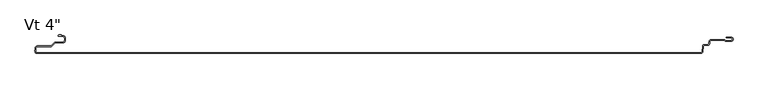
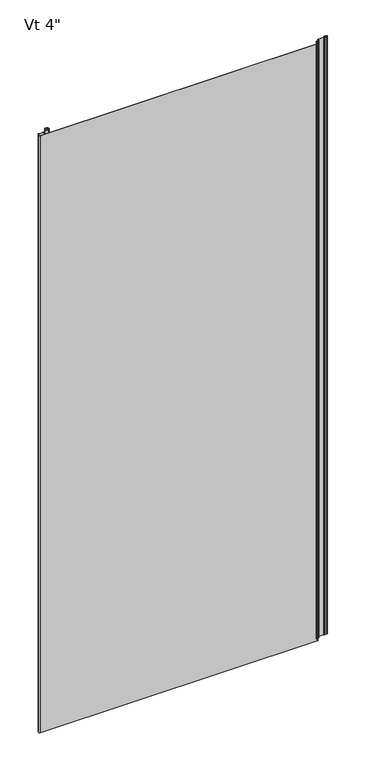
"""IFC4 building model written with IfcOpenShell, lengths in millimetres: plate geometry."""

from ifc_helpers import new_model, si_unit, point, frame_2d, origin, origin_with_axes, place, context, project, spatial, polyline, circle_curve, trimmed, segment, composite_curve, outline, extrude, source, transform, mapped, element, save


def plate_63041f73(model_context):
    return source(origin(), model_context, "Body", "SweptSolid", [
        extrude(outline(composite_curve([segment(polyline([(-532.5329867, -72.1060333), (-528.774586, -72.1060333), (-528.774586, -73.5045169), (-526.0754696, -73.5045169)]), True, "CONTINUOUS"), segment(trimmed(circle_curve(frame_2d((-526.0754696, -76.8545168)), 3.3499999), [point((-526.0754696, -73.5045169))], [point((-522.7254697, -76.8545168))], False, "CARTESIAN"), True, "CONTINUOUS"), segment(polyline([(-522.7254697, -76.8545168), (-522.7254697, -81.2545166)]), True, "CONTINUOUS"), segment(trimmed(circle_curve(frame_2d((-526.0754696, -81.2545166)), 3.3499999), [point((-522.7254697, -81.2545166))], [point((-526.0754696, -84.6045165))], False, "CARTESIAN"), True, "CONTINUOUS"), segment(polyline([(-526.0754696, -84.6045165), (-537.8863818, -84.6045165)]), True, "CONTINUOUS"), segment(trimmed(circle_curve(frame_2d((-537.8863818, -86.3045165)), 1.7), [point((-537.8863818, -84.6045165))], [point((-539.0884633, -85.102435))], True, "CARTESIAN"), True, "CONTINUOUS"), segment(polyline([(-539.0884633, -85.102435), (-543.8290223, -89.8429939)]), True, "CONTINUOUS"), segment(trimmed(circle_curve(frame_2d((-545.6674999, -88.0045163)), 2.6), [point((-543.8290223, -89.8429939))], [point((-545.6674999, -90.6045163))], False, "CARTESIAN"), True, "CONTINUOUS"), segment(polyline([(-545.6674999, -90.6045163), (-566.6742572, -90.6045163)]), True, "CONTINUOUS"), segment(trimmed(circle_curve(frame_2d((-566.6742572, -93.3045163)), 2.7), [point((-566.6742572, -90.6045163))], [point((-569.3639643, -93.0689835))], True, "CARTESIAN"), True, "CONTINUOUS"), segment(polyline([(-569.3639643, -93.0689835), (-569.7796495, -97.8159721)]), True, "CONTINUOUS"), segment(trimmed(circle_curve(frame_2d((-567.22876, -98.0393488)), 2.5606512), [point((-569.7796495, -97.8159721))], [point((-567.22876, -100.6))], True, "CARTESIAN"), True, "CONTINUOUS"), segment(polyline([(-567.22876, -100.6), (487.6519047, -100.6)]), True, "CONTINUOUS"), segment(trimmed(circle_curve(frame_2d((487.6519047, -98.7102824)), 1.8897176), [point((487.6519047, -100.6))], [point((489.5344274, -98.8750281))], True, "CARTESIAN"), True, "CONTINUOUS"), segment(polyline([(489.5344274, -98.8750281), (490.2810225, -90.3438082)]), True, "CONTINUOUS"), segment(trimmed(circle_curve(frame_2d((493.2970771, -90.6077531)), 3.027582), [point((490.2810225, -90.3438082))], [point((490.8950589, -88.7647769))], False, "CARTESIAN"), True, "CONTINUOUS"), segment(trimmed(circle_curve(frame_2d((493.2751942, -90.5909631)), 3.0), [point((490.8950589, -88.7647769))], [point((493.2848524, -87.5909787))], False, "CARTESIAN"), True, "CONTINUOUS"), segment(polyline([(493.2848524, -87.5909787), (498.6449659, -87.5909787)]), True, "CONTINUOUS"), segment(trimmed(circle_curve(frame_2d((498.6449659, -85.7909787)), 1.8), [point((498.6449659, -87.5909787))], [point((500.4449659, -85.7909787))], True, "CARTESIAN"), True, "CONTINUOUS"), segment(polyline([(500.4449659, -85.7909787), (500.4449659, -83.500418)]), True, "CONTINUOUS"), segment(trimmed(circle_curve(frame_2d((504.4449659, -83.500418)), 4.0), [point((500.4449659, -83.500418))], [point((504.4449659, -79.500418))], False, "CARTESIAN"), True, "CONTINUOUS"), segment(polyline([(504.4449659, -79.500418), (523.9824407, -79.500418)]), True, "CONTINUOUS"), segment(trimmed(circle_curve(frame_2d((523.9824407, -82.100418)), 2.6), [point((523.9824407, -79.500418))], [point((525.9423153, -80.3919416))], False, "CARTESIAN"), True, "CONTINUOUS"), segment(polyline([(525.9423153, -80.3919416), (526.8881383, -81.4769402), (535.7430969, -81.1263694)]), True, "CONTINUOUS"), segment(trimmed(circle_curve(frame_2d((535.6599479, -79.0261346)), 2.10188), [point((535.7430969, -81.1263694))], [point((535.7400007, -76.9257796))], True, "CARTESIAN"), True, "CONTINUOUS"), segment(polyline([(535.7400007, -76.9257796), (527.7295248, -76.4370324), (527.790425, -75.4388885), (535.7906063, -75.9270077)]), True, "CONTINUOUS"), segment(trimmed(circle_curve(frame_2d((535.6599479, -79.0261346)), 3.10188), [point((535.7906063, -75.9270077))], [point((535.7826562, -82.1255866))], False, "CARTESIAN"), True, "CONTINUOUS"), segment(polyline([(535.7826562, -82.1255866), (526.4490857, -82.4951059), (525.1885174, -81.0490479)]), True, "CONTINUOUS"), segment(trimmed(circle_curve(frame_2d((523.9824407, -82.100418)), 1.6), [point((525.1885174, -81.0490479))], [point((523.9824407, -80.500418))], True, "CARTESIAN"), True, "CONTINUOUS"), segment(polyline([(523.9824407, -80.500418), (504.4449659, -80.500418)]), True, "CONTINUOUS"), segment(trimmed(circle_curve(frame_2d((504.4449659, -83.500418)), 3.0), [point((504.4449659, -80.500418))], [point((501.4449659, -83.500418))], True, "CARTESIAN"), True, "CONTINUOUS"), segment(polyline([(501.4449659, -83.500418), (501.4449659, -85.7909787)]), True, "CONTINUOUS"), segment(trimmed(circle_curve(frame_2d((498.6449659, -85.7909787)), 2.8), [point((501.4449659, -85.7909787))], [point((498.6449659, -88.5909787))], False, "CARTESIAN"), True, "CONTINUOUS"), segment(polyline([(498.6449659, -88.5909787), (493.28308, -88.5909787)]), True, "CONTINUOUS"), segment(trimmed(circle_curve(frame_2d((493.2751942, -90.5909631)), 2.0), [point((493.28308, -88.5909787))], [point((491.6884373, -89.3735057))], True, "CARTESIAN"), True, "CONTINUOUS"), segment(trimmed(circle_curve(frame_2d((493.2970771, -90.6077531)), 2.027582), [point((491.6884373, -89.3735057))], [point((491.277215, -90.4309883))], True, "CARTESIAN"), True, "CONTINUOUS"), segment(polyline([(491.277215, -90.4309883), (490.53062, -98.9622082)]), True, "CONTINUOUS"), segment(trimmed(circle_curve(frame_2d((487.6519047, -98.7102824)), 2.8897176), [point((490.53062, -98.9622082))], [point((487.6519047, -101.6))], False, "CARTESIAN"), True, "CONTINUOUS"), segment(polyline([(487.6519047, -101.6), (-567.22876, -101.6)]), True, "CONTINUOUS"), segment(trimmed(circle_curve(frame_2d((-567.22876, -98.0393488)), 3.5606512), [point((-567.22876, -101.6))], [point((-570.7758373, -97.7287377))], False, "CARTESIAN"), True, "CONTINUOUS"), segment(polyline([(-570.7758373, -97.7287377), (-570.3601521, -92.9817491)]), True, "CONTINUOUS"), segment(trimmed(circle_curve(frame_2d((-566.6742572, -93.3045163)), 3.7), [point((-570.3601521, -92.9817491))], [point((-566.6742572, -89.6045163))], False, "CARTESIAN"), True, "CONTINUOUS"), segment(polyline([(-566.6742572, -89.6045163), (-545.6674999, -89.6045163)]), True, "CONTINUOUS"), segment(trimmed(circle_curve(frame_2d((-545.6674999, -88.0045163)), 1.6), [point((-545.6674999, -89.6045163))], [point((-544.5361291, -89.1358871))], True, "CARTESIAN"), True, "CONTINUOUS"), segment(polyline([(-544.5361291, -89.1358871), (-539.7955701, -84.3953282)]), True, "CONTINUOUS"), segment(trimmed(circle_curve(frame_2d((-537.8863818, -86.3045165)), 2.7), [point((-539.7955701, -84.3953282))], [point((-537.8863818, -83.6045165))], False, "CARTESIAN"), True, "CONTINUOUS"), segment(polyline([(-537.8863818, -83.6045165), (-526.0754696, -83.6045165)]), True, "CONTINUOUS"), segment(trimmed(circle_curve(frame_2d((-526.0754696, -81.2545166)), 2.3499999), [point((-526.0754696, -83.6045165))], [point((-523.7254697, -81.2545166))], True, "CARTESIAN"), True, "CONTINUOUS"), segment(polyline([(-523.7254697, -81.2545166), (-523.7254697, -76.8545168)]), True, "CONTINUOUS"), segment(trimmed(circle_curve(frame_2d((-526.0754696, -76.8545168)), 2.3499999), [point((-523.7254697, -76.8545168))], [point((-526.0754696, -74.5045169))], True, "CARTESIAN"), True, "CONTINUOUS"), segment(polyline([(-526.0754696, -74.5045169), (-532.5947886, -74.5045169)]), True, "CONTINUOUS"), segment(trimmed(circle_curve(frame_2d((-532.5345014, -73.3060323)), 1.2), [point((-532.5947886, -74.5045169))], [point((-532.5329867, -72.1060333))], False, "CARTESIAN"), True, "CONTINUOUS")], self_intersect=False)), origin_with_axes(), (0.0, 0.0, 1.0), 2400.0),
    ])


if __name__ == "__main__":
    model = new_model("IFC4")
    model_context = context("Model", 3, world=origin())
    ifc_project = project(units=[si_unit("LENGTHUNIT", "METRE", prefix="MILLI")], contexts=[model_context])
    site = spatial("IfcSite", under=ifc_project)
    building = spatial("IfcBuilding", under=site)
    placement = place(None, origin())
    plate_shape = plate_63041f73(model_context)
    element("IfcPlate", 1, ObjectType="KIP-42-KRHF-R19-CP-Vt-FL_SL : Vt 4\"", at=placement, inside=building, context=model_context, shape_type="MappedRepresentation", body=[
        mapped(plate_shape, transform((0.0, 0.0, 0.0), x_axis=(1.0, 0.0, 0.0), y_axis=(0.0, 1.0, 0.0), z_axis=(0.0, 0.0, 1.0))),
    ])
    save(model, "model.ifc")
